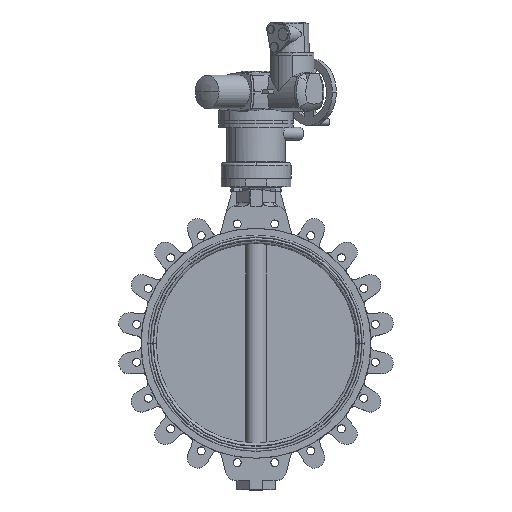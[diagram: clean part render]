
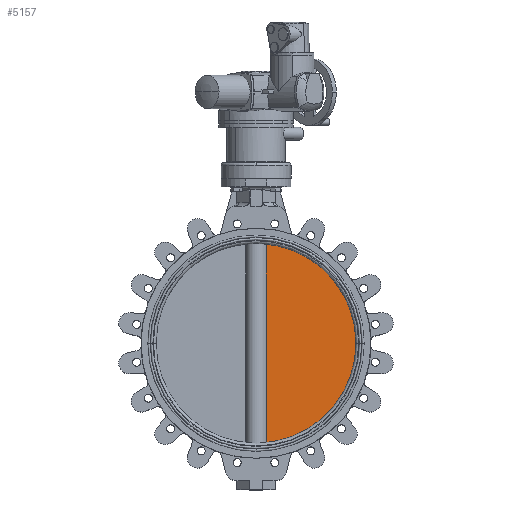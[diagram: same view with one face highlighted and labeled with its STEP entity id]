
A CAD part, top view. The second image highlights one B-rep face of the part: STEP entity #5157.
In plain terms, the highlighted planar face has unit normal (0, 0, 1).
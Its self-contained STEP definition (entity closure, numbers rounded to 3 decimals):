
#252 = VERTEX_POINT ( 'NONE', #26683 ) ;
#1429 = DIRECTION ( 'NONE',  ( 0., -1., 0. ) ) ;
#1587 = CARTESIAN_POINT ( 'NONE',  ( 0., 0., 10. ) ) ;
#3594 = CARTESIAN_POINT ( 'NONE',  ( 30.397, -298.456, 10. ) ) ;
#3664 = CARTESIAN_POINT ( 'NONE',  ( 30.397, 542.001, 10. ) ) ;
#4378 = DIRECTION ( 'NONE',  ( -1., 0., 0. ) ) ;
#4939 = CARTESIAN_POINT ( 'NONE',  ( 30.397, 542.001, 10. ) ) ;
#5157 = ADVANCED_FACE ( 'NONE', ( #32089 ), #29639, .F. ) ;
#5846 = CARTESIAN_POINT ( 'NONE',  ( 300., 0., 10. ) ) ;
#7254 = CARTESIAN_POINT ( 'NONE',  ( 0., 0., 10. ) ) ;
#7621 = ORIENTED_EDGE ( 'NONE', *, *, #12805, .F. ) ;
#7890 = ORIENTED_EDGE ( 'NONE', *, *, #32001, .T. ) ;
#9269 = AXIS2_PLACEMENT_3D ( 'NONE', #7254, #32859, #21083 ) ;
#12521 = AXIS2_PLACEMENT_3D ( 'NONE', #1587, #35971, #4378 ) ;
#12805 = EDGE_CURVE ( 'NONE', #12925, #30192, #14222, .T. ) ;
#12925 = VERTEX_POINT ( 'NONE', #5846 ) ;
#14222 = CIRCLE ( 'NONE', #12521, 300. ) ;
#14610 = CIRCLE ( 'NONE', #9269, 300. ) ;
#14862 = DIRECTION ( 'NONE',  ( 0., 0., -1. ) ) ;
#15267 = ORIENTED_EDGE ( 'NONE', *, *, #18511, .F. ) ;
#15601 = EDGE_LOOP ( 'NONE', ( #15267, #7890, #7621 ) ) ;
#18511 = EDGE_CURVE ( 'NONE', #252, #12925, #14610, .T. ) ;
#20673 = DIRECTION ( 'NONE',  ( -1., 0., 0. ) ) ;
#21083 = DIRECTION ( 'NONE',  ( -1., 0., 0. ) ) ;
#21964 = LINE ( 'NONE', #4939, #23321 ) ;
#23321 = VECTOR ( 'NONE', #1429, 1000. ) ;
#26683 = CARTESIAN_POINT ( 'NONE',  ( 30.397, 298.456, 10. ) ) ;
#29442 = AXIS2_PLACEMENT_3D ( 'NONE', #3664, #14862, #20673 ) ;
#29639 = PLANE ( 'NONE',  #29442 ) ;
#30192 = VERTEX_POINT ( 'NONE', #3594 ) ;
#32001 = EDGE_CURVE ( 'NONE', #252, #30192, #21964, .T. ) ;
#32089 = FACE_OUTER_BOUND ( 'NONE', #15601, .T. ) ;
#32859 = DIRECTION ( 'NONE',  ( 0., 0., -1. ) ) ;
#35971 = DIRECTION ( 'NONE',  ( 0., 0., -1. ) ) ;
